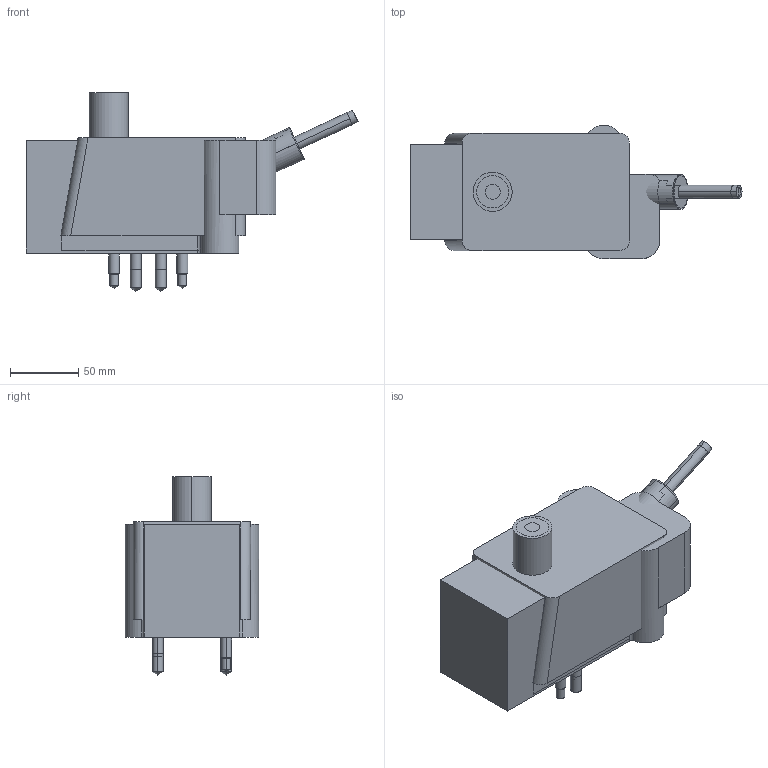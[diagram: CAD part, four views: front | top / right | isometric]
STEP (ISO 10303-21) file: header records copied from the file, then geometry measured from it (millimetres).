
FILE_DESCRIPTION((' '),'2;1');
FILE_NAME( 'EZ-25-S-L.stp', '2023-11-30T09:15:23', (' '), ('--- Datakit www.datakit.com---'), ' Datakit CrossCadWare V2020.4 Oct 21 2020', 'Export from SolidLink (Hexagon Production Software)', ' ');
FILE_SCHEMA(('AP242_MANAGED_MODEL_BASED_3D_ENGINEERING_MIM_LF { 1 0 10303 442 1 1 4 }'));
Length unit declared in the file: millimetre
Products named in the file (135): Workplanes; 1701283449; 1701204492; 1701204445; 1700493348; 1679436229; 1679436230; 1679436231; 1679436232; 1679436233; 1679436238; 1679436250; 1679436256; 1679436257; 1679436258; 1679436261; 1679436262; 1700504191; 1700842068; 1701354950; 1701354951; 1701354952; 1701354953; 1701354954; 1701354955; 1701354956; 1701354957; 1701354958; 1701354959; 1701354960; 1701354961; 1701354962; 1701354963; 1701354964; 1701354965; 1701354966; 1701354967; 1701354968; 1701354969; 1701354970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
Bounding box: 242.73 x 97.75 x 144.89 mm (x, y, z)
Volume: 2583056.4 mm3; surface area: 230949.7 mm2
Topology: 17 solids, 18 shells, 439 faces, 1274 edges, 1096 vertices
Faces by surface type: cylinder 178, plane 153, cone 96, sphere 6, torus 4, bspline 2
Entity records: 17829 total; most frequent: CARTESIAN_POINT 4603, DIRECTION 2651, ORIENTED_EDGE 2074, AXIS2_PLACEMENT_3D 1046, EDGE_CURVE 1043, VERTEX_POINT 670, VECTOR 559, LINE 559
